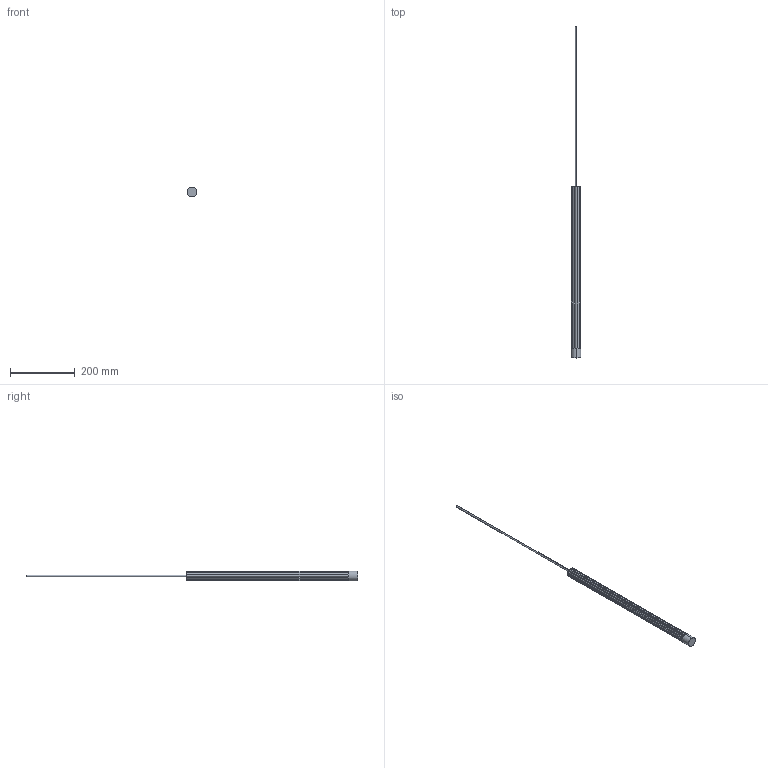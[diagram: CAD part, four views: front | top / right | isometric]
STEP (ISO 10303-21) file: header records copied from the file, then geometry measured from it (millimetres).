
FILE_DESCRIPTION (( 'STEP AP203' ), '1' );
FILE_NAME ('tob stripes 50.STEP', '2022-11-21T00:10:59', ( '' ), ( '' ), 'SwSTEP 2.0', 'SolidWorks 2014', '' );
FILE_SCHEMA (( 'CONFIG_CONTROL_DESIGN' ));
Length unit declared in the file: millimetre
Products named in the file (1): tob stripes 50
Bounding box: 30 x 1026 x 30 mm (x, y, z)
Volume: 315783.8 mm3; surface area: 80367.6 mm2
Topology: 3 solids, 3 shells, 363 faces, 868 edges, 512 vertices
Faces by surface type: cylinder 168, torus 140, plane 55
Entity records: 10655 total; most frequent: DIRECTION 2152, CARTESIAN_POINT 1744, ORIENTED_EDGE 1736, AXIS2_PLACEMENT_3D 920, EDGE_CURVE 868, CIRCLE 556, VERTEX_POINT 512, EDGE_LOOP 366
